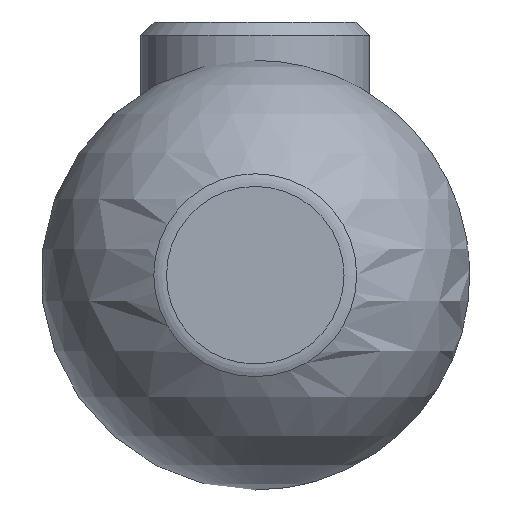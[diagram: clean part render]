
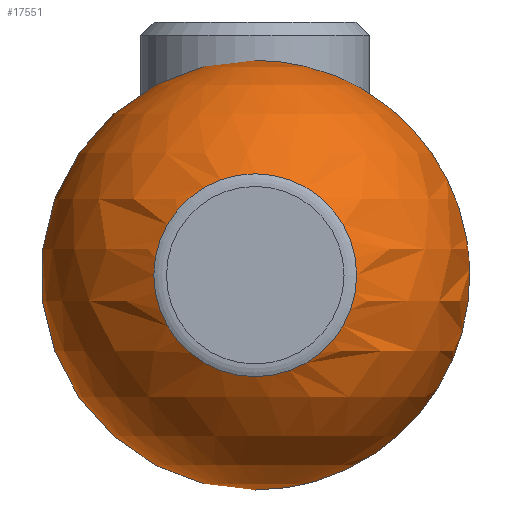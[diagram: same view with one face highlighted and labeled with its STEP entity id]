
A CAD part, left-side view. The second image highlights one B-rep face of the part: STEP entity #17551.
In plain terms, the highlighted spherical face has radius 12.179 mm.
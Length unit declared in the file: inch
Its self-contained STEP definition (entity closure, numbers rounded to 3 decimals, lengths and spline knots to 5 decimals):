
#32=SPHERICAL_SURFACE('',#18723,0.4795);
#272=FACE_BOUND('',#3184,.T.);
#273=FACE_BOUND('',#3185,.T.);
#3184=EDGE_LOOP('',(#16370));
#3185=EDGE_LOOP('',(#16371));
#4433=CIRCLE('',#18715,0.26464);
#4436=CIRCLE('',#18722,0.2265);
#8664=VERTEX_POINT('',#39259);
#8667=VERTEX_POINT('',#39269);
#11236=EDGE_CURVE('',#8664,#8664,#4433,.T.);
#11239=EDGE_CURVE('',#8667,#8667,#4436,.T.);
#16370=ORIENTED_EDGE('',*,*,#11236,.T.);
#16371=ORIENTED_EDGE('',*,*,#11239,.T.);
#17551=ADVANCED_FACE('',(#272,#273),#32,.T.);
#18715=AXIS2_PLACEMENT_3D('',#39260,#22128,#22129);
#18722=AXIS2_PLACEMENT_3D('',#39270,#22142,#22143);
#18723=AXIS2_PLACEMENT_3D('',#39271,#22144,#22145);
#22128=DIRECTION('center_axis',(-1.,0.,0.));
#22129=DIRECTION('ref_axis',(0.,0.,-1.));
#22142=DIRECTION('center_axis',(1.,0.,0.));
#22143=DIRECTION('ref_axis',(0.,0.,-1.));
#22144=DIRECTION('center_axis',(0.,0.,1.));
#22145=DIRECTION('ref_axis',(1.,0.,0.));
#39259=CARTESIAN_POINT('',(-0.46231,0.14868,0.));
#39260=CARTESIAN_POINT('Origin',(-0.46231,0.41332,0.));
#39269=CARTESIAN_POINT('',(-1.2848,0.63982,0.));
#39270=CARTESIAN_POINT('Origin',(-1.2848,0.41332,0.));
#39271=CARTESIAN_POINT('Origin',(-0.86217,0.41332,0.));
